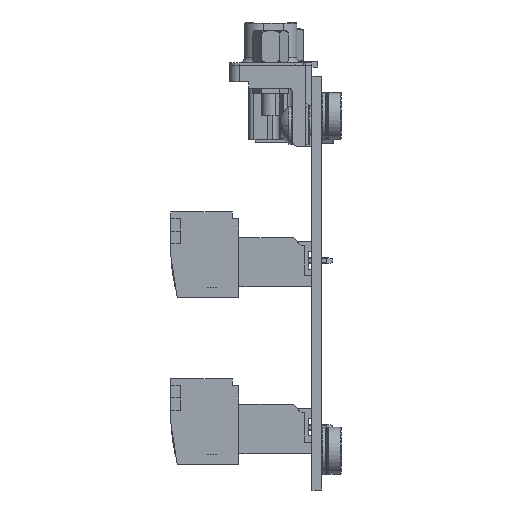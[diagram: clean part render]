
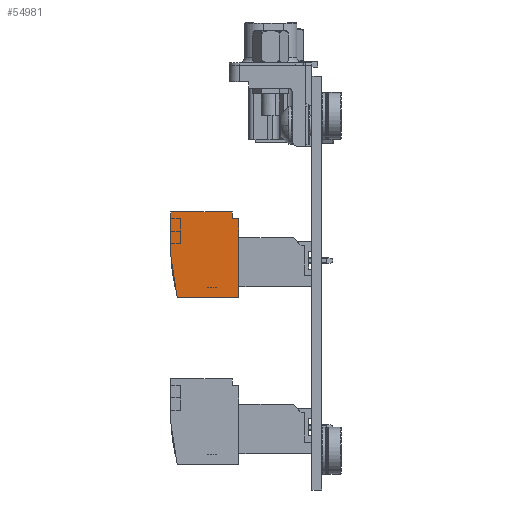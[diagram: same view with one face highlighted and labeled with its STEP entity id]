
A CAD part, left-side view. The second image highlights one B-rep face of the part: STEP entity #54981.
In plain terms, the highlighted planar face has unit normal (-1, 0, 0) as drawn and (1, 0, 0) by its records, which use the part's own axes.
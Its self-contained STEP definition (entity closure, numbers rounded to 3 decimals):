
#10169 = VERTEX_POINT ( 'NONE', #54391 ) ;
#10331 = VERTEX_POINT ( 'NONE', #54503 ) ;
#10337 = VERTEX_POINT ( 'NONE', #54506 ) ;
#10340 = VERTEX_POINT ( 'NONE', #54508 ) ;
#10347 = VERTEX_POINT ( 'NONE', #54513 ) ;
#10349 = VERTEX_POINT ( 'NONE', #54515 ) ;
#10360 = VERTEX_POINT ( 'NONE', #54522 ) ;
#10366 = VERTEX_POINT ( 'NONE', #54525 ) ;
#10518 = VERTEX_POINT ( 'NONE', #54630 ) ;
#10520 = VERTEX_POINT ( 'NONE', #54632 ) ;
#10522 = VERTEX_POINT ( 'NONE', #54634 ) ;
#21813 = EDGE_CURVE ( 'NONE', #10331, #10169, #152619, .T. ) ;
#21816 = EDGE_CURVE ( 'NONE', #10340, #10331, #152663, .T. ) ;
#21820 = EDGE_CURVE ( 'NONE', #10347, #10337, #152672, .T. ) ;
#21824 = EDGE_CURVE ( 'NONE', #10337, #10349, #152688, .T. ) ;
#21827 = EDGE_CURVE ( 'NONE', #10349, #10360, #152700, .T. ) ;
#21830 = EDGE_CURVE ( 'NONE', #10360, #10366, #152771, .T. ) ;
#21832 = EDGE_CURVE ( 'NONE', #10366, #10340, #152791, .T. ) ;
#21954 = EDGE_CURVE ( 'NONE', #10518, #10347, #162028, .T. ) ;
#21956 = EDGE_CURVE ( 'NONE', #10520, #10169, #161970, .T. ) ;
#21957 = EDGE_CURVE ( 'NONE', #10522, #10520, #162058, .T. ) ;
#21958 = EDGE_CURVE ( 'NONE', #10518, #10522, #161993, .T. ) ;
#54391 = CARTESIAN_POINT ( 'NONE',  ( 35., 1., 9.4 ) ) ;
#54503 = CARTESIAN_POINT ( 'NONE',  ( 35., 1., 10.4 ) ) ;
#54506 = CARTESIAN_POINT ( 'NONE',  ( 35., 13., 10.4 ) ) ;
#54508 = CARTESIAN_POINT ( 'NONE',  ( 35., 4.5, 10.4 ) ) ;
#54513 = CARTESIAN_POINT ( 'NONE',  ( 35., 13., 1. ) ) ;
#54515 = CARTESIAN_POINT ( 'NONE',  ( 35., 9.65, 10.4 ) ) ;
#54522 = CARTESIAN_POINT ( 'NONE',  ( 35., 9.65, 18.3 ) ) ;
#54525 = CARTESIAN_POINT ( 'NONE',  ( 35., 4.5, 18.3 ) ) ;
#54630 = CARTESIAN_POINT ( 'NONE',  ( 35., 6.5, 0. ) ) ;
#54632 = CARTESIAN_POINT ( 'NONE',  ( 35., 0., 9.4 ) ) ;
#54634 = CARTESIAN_POINT ( 'NONE',  ( 35., 0., 0. ) ) ;
#54981 = ADVANCED_FACE ( 'NONE', ( #176342 ), #176454, .T. ) ;
#56159 = ORIENTED_EDGE ( 'NONE', *, *, #21824, .T. ) ;
#56161 = ORIENTED_EDGE ( 'NONE', *, *, #21827, .T. ) ;
#56163 = ORIENTED_EDGE ( 'NONE', *, *, #21830, .T. ) ;
#56165 = ORIENTED_EDGE ( 'NONE', *, *, #21832, .T. ) ;
#56166 = ORIENTED_EDGE ( 'NONE', *, *, #21816, .T. ) ;
#56168 = ORIENTED_EDGE ( 'NONE', *, *, #21813, .T. ) ;
#56170 = ORIENTED_EDGE ( 'NONE', *, *, #21956, .F. ) ;
#56172 = ORIENTED_EDGE ( 'NONE', *, *, #21957, .F. ) ;
#56174 = ORIENTED_EDGE ( 'NONE', *, *, #21958, .F. ) ;
#56176 = ORIENTED_EDGE ( 'NONE', *, *, #21954, .T. ) ;
#56178 = ORIENTED_EDGE ( 'NONE', *, *, #21820, .T. ) ;
#143486 = VECTOR ( 'NONE', #152648, 1000. ) ;
#143491 = VECTOR ( 'NONE', #152668, 1000. ) ;
#143496 = VECTOR ( 'NONE', #152696, 1000. ) ;
#143502 = VECTOR ( 'NONE', #152724, 1000. ) ;
#143506 = VECTOR ( 'NONE', #152752, 1000. ) ;
#143518 = VECTOR ( 'NONE', #152778, 1000. ) ;
#143522 = VECTOR ( 'NONE', #152798, 1000. ) ;
#143726 = VECTOR ( 'NONE', #162056, 1000. ) ;
#143733 = VECTOR ( 'NONE', #162036, 1000. ) ;
#143736 = VECTOR ( 'NONE', #162076, 1000. ) ;
#143738 = VECTOR ( 'NONE', #162066, 1000. ) ;
#152619 = LINE ( 'NONE', #152643, #143486 ) ;
#152643 = CARTESIAN_POINT ( 'NONE',  ( 35., 1., 0. ) ) ;
#152648 = DIRECTION ( 'NONE',  ( 0., 0., -1. ) ) ;
#152663 = LINE ( 'NONE', #152666, #143491 ) ;
#152666 = CARTESIAN_POINT ( 'NONE',  ( 35., 0., 10.4 ) ) ;
#152668 = DIRECTION ( 'NONE',  ( 0., -1., 0. ) ) ;
#152672 = LINE ( 'NONE', #152692, #143496 ) ;
#152688 = LINE ( 'NONE', #152720, #143502 ) ;
#152692 = CARTESIAN_POINT ( 'NONE',  ( 35., 13., 0. ) ) ;
#152696 = DIRECTION ( 'NONE',  ( 0., 0., 1. ) ) ;
#152700 = LINE ( 'NONE', #152747, #143506 ) ;
#152720 = CARTESIAN_POINT ( 'NONE',  ( 35., 0., 10.4 ) ) ;
#152724 = DIRECTION ( 'NONE',  ( 0., -1., 0. ) ) ;
#152747 = CARTESIAN_POINT ( 'NONE',  ( 35., 9.65, 0. ) ) ;
#152752 = DIRECTION ( 'NONE',  ( 0., 0., 1. ) ) ;
#152771 = LINE ( 'NONE', #152775, #143518 ) ;
#152775 = CARTESIAN_POINT ( 'NONE',  ( 35., 0., 18.3 ) ) ;
#152778 = DIRECTION ( 'NONE',  ( 0., -1., 0. ) ) ;
#152791 = LINE ( 'NONE', #152796, #143522 ) ;
#152796 = CARTESIAN_POINT ( 'NONE',  ( 35., 4.5, 0. ) ) ;
#152798 = DIRECTION ( 'NONE',  ( 0., 0., -1. ) ) ;
#161970 = LINE ( 'NONE', #162049, #143726 ) ;
#161993 = LINE ( 'NONE', #162069, #143736 ) ;
#162028 = LINE ( 'NONE', #162033, #143733 ) ;
#162033 = CARTESIAN_POINT ( 'NONE',  ( 35., 6.5, 0. ) ) ;
#162036 = DIRECTION ( 'NONE',  ( 0., 0.988, 0.152 ) ) ;
#162049 = CARTESIAN_POINT ( 'NONE',  ( 35., 0., 9.4 ) ) ;
#162056 = DIRECTION ( 'NONE',  ( 0., 1., 0. ) ) ;
#162058 = LINE ( 'NONE', #162063, #143738 ) ;
#162063 = CARTESIAN_POINT ( 'NONE',  ( 35., 0., 0. ) ) ;
#162066 = DIRECTION ( 'NONE',  ( 0., 0., 1. ) ) ;
#162069 = CARTESIAN_POINT ( 'NONE',  ( 35., 6.5, 0. ) ) ;
#162076 = DIRECTION ( 'NONE',  ( 0., -1., 0. ) ) ;
#176342 = FACE_OUTER_BOUND ( 'NONE', #207451, .T. ) ;
#176454 = PLANE ( 'NONE',  #179942 ) ;
#176497 = CARTESIAN_POINT ( 'NONE',  ( 35., 0., 0. ) ) ;
#176500 = DIRECTION ( 'NONE',  ( 1., 0., 0. ) ) ;
#176502 = DIRECTION ( 'NONE',  ( 0., 0., -1. ) ) ;
#179942 = AXIS2_PLACEMENT_3D ( 'NONE', #176497, #176500, #176502 ) ;
#207451 = EDGE_LOOP ( 'NONE', ( #56159, #56161, #56163, #56165, #56166, #56168, #56170, #56172, #56174, #56176, #56178 ) ) ;
